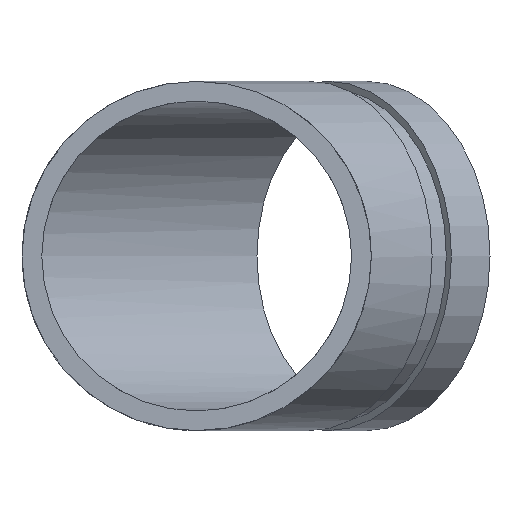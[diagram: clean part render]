
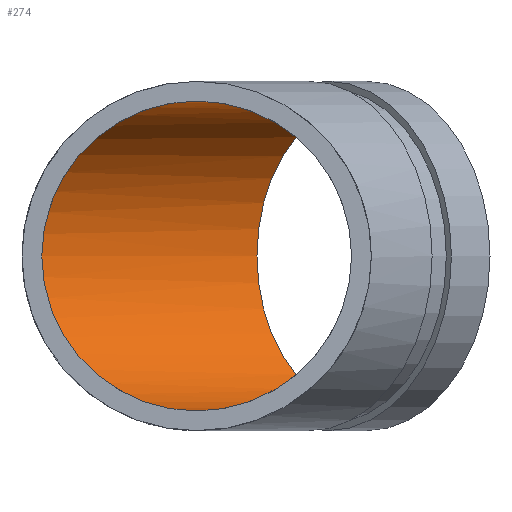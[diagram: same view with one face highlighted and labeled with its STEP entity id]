
A CAD part, front view. The second image highlights one B-rep face of the part: STEP entity #274.
In plain terms, the highlighted cylindrical face has radius 45.06 mm (diameter 90.119 mm), a full revolution.
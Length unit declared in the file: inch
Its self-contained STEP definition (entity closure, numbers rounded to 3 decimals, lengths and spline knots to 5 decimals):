
#45=ELLIPSE('',#322,1.92016,1.774);
#46=ELLIPSE('',#323,1.92016,1.774);
#47=ELLIPSE('',#324,1.92016,1.774);
#72=FACE_OUTER_BOUND('',#90,.T.);
#90=EDGE_LOOP('',(#219,#220,#221,#222,#223,#224));
#102=LINE('',#510,#110);
#110=VECTOR('',#413,1.774);
#128=CIRCLE('',#327,1.774);
#143=VERTEX_POINT('',#498);
#144=VERTEX_POINT('',#499);
#145=VERTEX_POINT('',#501);
#147=VERTEX_POINT('',#508);
#169=EDGE_CURVE('',#143,#144,#45,.T.);
#170=EDGE_CURVE('',#143,#145,#46,.T.);
#171=EDGE_CURVE('',#144,#145,#47,.T.);
#174=EDGE_CURVE('',#147,#147,#128,.T.);
#175=EDGE_CURVE('',#147,#144,#102,.T.);
#219=ORIENTED_EDGE('',*,*,#174,.F.);
#220=ORIENTED_EDGE('',*,*,#175,.T.);
#221=ORIENTED_EDGE('',*,*,#171,.T.);
#222=ORIENTED_EDGE('',*,*,#170,.F.);
#223=ORIENTED_EDGE('',*,*,#169,.T.);
#224=ORIENTED_EDGE('',*,*,#175,.F.);
#246=CYLINDRICAL_SURFACE('',#326,1.774);
#274=ADVANCED_FACE('',(#72),#246,.F.);
#322=AXIS2_PLACEMENT_3D('',#500,#400,#401);
#323=AXIS2_PLACEMENT_3D('',#502,#402,#403);
#324=AXIS2_PLACEMENT_3D('',#503,#404,#405);
#326=AXIS2_PLACEMENT_3D('',#507,#409,#410);
#327=AXIS2_PLACEMENT_3D('',#509,#411,#412);
#400=DIRECTION('center_axis',(-0.383,-0.924,0.));
#401=DIRECTION('ref_axis',(0.924,-0.383,0.));
#402=DIRECTION('center_axis',(0.383,0.924,0.));
#403=DIRECTION('ref_axis',(0.924,-0.383,0.));
#404=DIRECTION('center_axis',(-0.383,-0.924,0.));
#405=DIRECTION('ref_axis',(0.924,-0.383,0.));
#409=DIRECTION('center_axis',(-0.707,-0.707,0.));
#410=DIRECTION('ref_axis',(0.707,-0.707,0.));
#411=DIRECTION('center_axis',(-0.707,-0.707,0.));
#412=DIRECTION('ref_axis',(0.707,-0.707,0.));
#413=DIRECTION('',(-0.707,-0.707,0.));
#498=CARTESIAN_POINT('',(0.,0.,1.774));
#499=CARTESIAN_POINT('',(-1.774,0.73481,0.));
#500=CARTESIAN_POINT('Origin',(0.,0.,0.));
#501=CARTESIAN_POINT('',(0.,0.,-1.774));
#502=CARTESIAN_POINT('Origin',(0.,0.,0.));
#503=CARTESIAN_POINT('Origin',(0.,0.,0.));
#507=CARTESIAN_POINT('Origin',(1.94454,1.94454,0.));
#508=CARTESIAN_POINT('',(0.69014,3.19895,0.));
#509=CARTESIAN_POINT('Origin',(1.94454,1.94454,0.));
#510=CARTESIAN_POINT('',(0.69014,3.19895,0.));
